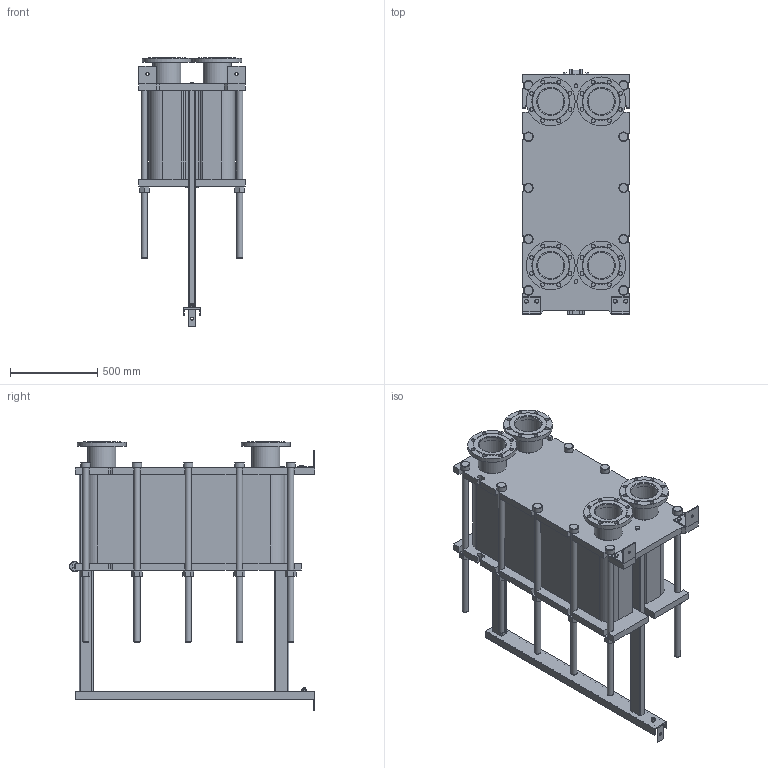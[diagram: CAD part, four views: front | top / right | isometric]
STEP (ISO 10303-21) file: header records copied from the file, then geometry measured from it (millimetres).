
FILE_DESCRIPTION(/* description */ (''),/* implementation_level */ '2;1');
FILE_NAME(/* name */ 'C:\Users\zhuro\Desktop\ENCO\TO\ЭН-041\ЭН-0,5-041-147-1.stp',/* time_stamp */ '2022-06-06T11:01:13+03:00',/* author */ ('zhuro'),/* organization */ (''),/* preprocessor_version */ 'ST-DEVELOPER v18.1',/* originating_system */ 'Autodesk Inventor 2022',/* authorisation */ '');
FILE_SCHEMA (('AUTOMOTIVE_DESIGN { 1 0 10303 214 3 1 1 }'));
Length unit declared in the file: millimetre
Products named in the file (1): ЭН-0,5-041-147-1
Bounding box: 610 x 1406.5 x 1542.5 mm (x, y, z)
Volume: 369016028.1 mm3; surface area: 10060822.6 mm2
Topology: 52 solids, 52 shells, 711 faces, 1696 edges, 1094 vertices
Faces by surface type: plane 487, cylinder 177, cone 41, torus 6
Full cylindrical faces by diameter (mm): 8 x4, 10 x2, 16 x8, 18 x3, 22 x32, 36 x24, 50 x1, 54 x10, 60 x12, 151 x4, 161 x8, 280 x4
Entity records: 22667 total; most frequent: CARTESIAN_POINT 5230, DIRECTION 3644, ORIENTED_EDGE 3392, EDGE_CURVE 1696, AXIS2_PLACEMENT_3D 1272, LINE 1100, VECTOR 1100, VERTEX_POINT 1094
